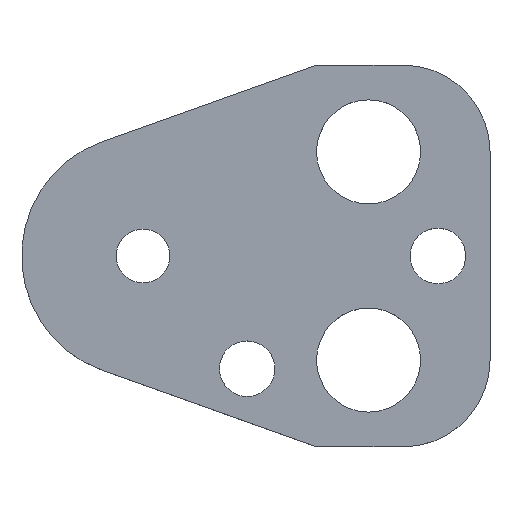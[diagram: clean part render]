
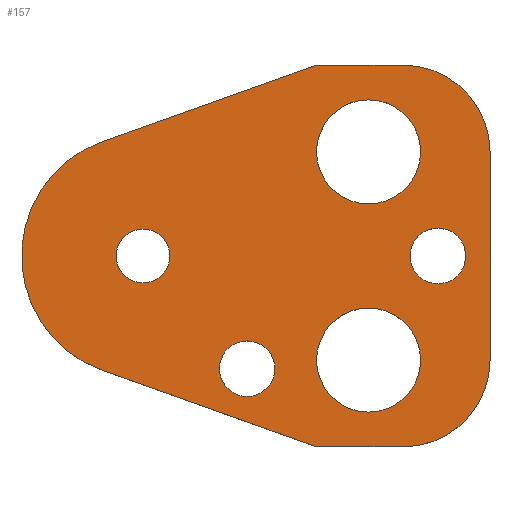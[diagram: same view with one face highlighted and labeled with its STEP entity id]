
A CAD part, top view. The second image highlights one B-rep face of the part: STEP entity #157.
In plain terms, the highlighted planar face has unit normal (0, 0, 1).
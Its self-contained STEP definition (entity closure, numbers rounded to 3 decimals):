
#103=FACE_BOUND('',#207,.T.);
#104=FACE_BOUND('',#208,.T.);
#105=FACE_BOUND('',#209,.T.);
#106=FACE_BOUND('',#210,.T.);
#107=FACE_BOUND('',#211,.T.);
#108=FACE_BOUND('',#212,.T.);
#122=CIRCLE('',#480,10.);
#124=CIRCLE('',#484,10.);
#127=CIRCLE('',#490,14.);
#138=CIRCLE('',#503,3.2);
#139=CIRCLE('',#504,3.2);
#140=CIRCLE('',#505,6.);
#141=CIRCLE('',#506,6.);
#142=CIRCLE('',#507,6.);
#143=CIRCLE('',#508,6.);
#144=CIRCLE('',#509,3.2);
#145=CIRCLE('',#510,3.2);
#146=CIRCLE('',#511,3.1);
#147=CIRCLE('',#512,3.1);
#157=ADVANCED_FACE('',(#103,#104,#105,#106,#107,#108),#174,.T.);
#174=PLANE('',#513);
#207=EDGE_LOOP('',(#273,#274,#275,#276,#277,#278,#279,#280));
#208=EDGE_LOOP('',(#281,#282));
#209=EDGE_LOOP('',(#283,#284));
#210=EDGE_LOOP('',(#285,#286));
#211=EDGE_LOOP('',(#287,#288));
#212=EDGE_LOOP('',(#289,#290));
#273=ORIENTED_EDGE('',*,*,#368,.T.);
#274=ORIENTED_EDGE('',*,*,#372,.T.);
#275=ORIENTED_EDGE('',*,*,#375,.T.);
#276=ORIENTED_EDGE('',*,*,#378,.T.);
#277=ORIENTED_EDGE('',*,*,#381,.T.);
#278=ORIENTED_EDGE('',*,*,#384,.T.);
#279=ORIENTED_EDGE('',*,*,#387,.T.);
#280=ORIENTED_EDGE('',*,*,#390,.T.);
#281=ORIENTED_EDGE('',*,*,#401,.T.);
#282=ORIENTED_EDGE('',*,*,#402,.T.);
#283=ORIENTED_EDGE('',*,*,#403,.T.);
#284=ORIENTED_EDGE('',*,*,#404,.T.);
#285=ORIENTED_EDGE('',*,*,#405,.T.);
#286=ORIENTED_EDGE('',*,*,#406,.T.);
#287=ORIENTED_EDGE('',*,*,#407,.T.);
#288=ORIENTED_EDGE('',*,*,#408,.T.);
#289=ORIENTED_EDGE('',*,*,#409,.T.);
#290=ORIENTED_EDGE('',*,*,#410,.T.);
#332=VERTEX_POINT('',#649);
#333=VERTEX_POINT('',#651);
#336=VERTEX_POINT('',#658);
#338=VERTEX_POINT('',#664);
#340=VERTEX_POINT('',#670);
#342=VERTEX_POINT('',#676);
#344=VERTEX_POINT('',#682);
#346=VERTEX_POINT('',#688);
#357=VERTEX_POINT('',#717);
#358=VERTEX_POINT('',#718);
#359=VERTEX_POINT('',#721);
#360=VERTEX_POINT('',#722);
#361=VERTEX_POINT('',#725);
#362=VERTEX_POINT('',#726);
#363=VERTEX_POINT('',#729);
#364=VERTEX_POINT('',#730);
#365=VERTEX_POINT('',#733);
#366=VERTEX_POINT('',#734);
#368=EDGE_CURVE('',#333,#332,#422,.T.);
#372=EDGE_CURVE('',#332,#336,#426,.T.);
#375=EDGE_CURVE('',#336,#338,#122,.T.);
#378=EDGE_CURVE('',#338,#340,#430,.T.);
#381=EDGE_CURVE('',#340,#342,#124,.T.);
#384=EDGE_CURVE('',#342,#344,#434,.T.);
#387=EDGE_CURVE('',#344,#346,#437,.T.);
#390=EDGE_CURVE('',#346,#333,#127,.T.);
#401=EDGE_CURVE('',#357,#358,#138,.T.);
#402=EDGE_CURVE('',#358,#357,#139,.T.);
#403=EDGE_CURVE('',#359,#360,#140,.T.);
#404=EDGE_CURVE('',#360,#359,#141,.T.);
#405=EDGE_CURVE('',#361,#362,#142,.T.);
#406=EDGE_CURVE('',#362,#361,#143,.T.);
#407=EDGE_CURVE('',#363,#364,#144,.T.);
#408=EDGE_CURVE('',#364,#363,#145,.T.);
#409=EDGE_CURVE('',#365,#366,#146,.T.);
#410=EDGE_CURVE('',#366,#365,#147,.T.);
#422=LINE('',#650,#450);
#426=LINE('',#659,#454);
#430=LINE('',#671,#458);
#434=LINE('',#683,#462);
#437=LINE('',#689,#465);
#450=VECTOR('',#527,1.);
#454=VECTOR('',#533,1.);
#458=VECTOR('',#545,1.);
#462=VECTOR('',#557,1.);
#465=VECTOR('',#562,1.);
#480=AXIS2_PLACEMENT_3D('',#665,#538,#539);
#484=AXIS2_PLACEMENT_3D('',#677,#550,#551);
#490=AXIS2_PLACEMENT_3D('',#693,#568,#569);
#503=AXIS2_PLACEMENT_3D('',#716,#594,#595);
#504=AXIS2_PLACEMENT_3D('',#719,#596,#597);
#505=AXIS2_PLACEMENT_3D('',#720,#598,#599);
#506=AXIS2_PLACEMENT_3D('',#723,#600,#601);
#507=AXIS2_PLACEMENT_3D('',#724,#602,#603);
#508=AXIS2_PLACEMENT_3D('',#727,#604,#605);
#509=AXIS2_PLACEMENT_3D('',#728,#606,#607);
#510=AXIS2_PLACEMENT_3D('',#731,#608,#609);
#511=AXIS2_PLACEMENT_3D('',#732,#610,#611);
#512=AXIS2_PLACEMENT_3D('',#735,#612,#613);
#513=AXIS2_PLACEMENT_3D('',#736,#614,#615);
#527=DIRECTION('',(0.942,-0.336,0.));
#533=DIRECTION('',(1.,0.,0.));
#538=DIRECTION('',(0.,0.,1.));
#539=DIRECTION('',(-0.707,0.707,0.));
#545=DIRECTION('',(0.,1.,0.));
#550=DIRECTION('',(0.,0.,1.));
#551=DIRECTION('',(-0.707,-0.707,0.));
#557=DIRECTION('',(-1.,0.,0.));
#562=DIRECTION('',(-0.942,-0.336,0.));
#568=DIRECTION('',(0.,0.,1.));
#569=DIRECTION('',(1.,0.,0.));
#594=DIRECTION('',(0.,0.,-1.));
#595=DIRECTION('',(-1.,0.,0.));
#596=DIRECTION('',(0.,0.,-1.));
#597=DIRECTION('',(1.,0.,0.));
#598=DIRECTION('',(0.,0.,-1.));
#599=DIRECTION('',(-1.,0.,0.));
#600=DIRECTION('',(0.,0.,-1.));
#601=DIRECTION('',(1.,0.,0.));
#602=DIRECTION('',(0.,0.,-1.));
#603=DIRECTION('',(-1.,0.,0.));
#604=DIRECTION('',(0.,0.,-1.));
#605=DIRECTION('',(1.,0.,0.));
#606=DIRECTION('',(0.,0.,-1.));
#607=DIRECTION('',(-1.,0.,0.));
#608=DIRECTION('',(0.,0.,-1.));
#609=DIRECTION('',(1.,0.,0.));
#610=DIRECTION('',(0.,0.,-1.));
#611=DIRECTION('',(-1.,0.,0.));
#612=DIRECTION('',(0.,0.,-1.));
#613=DIRECTION('',(1.,0.,0.));
#614=DIRECTION('',(0.,0.,1.));
#615=DIRECTION('',(0.942,-0.336,0.));
#649=CARTESIAN_POINT('',(20.,-22.,5.));
#650=CARTESIAN_POINT('',(20.,-22.,5.));
#651=CARTESIAN_POINT('',(-4.704,-13.186,5.));
#658=CARTESIAN_POINT('',(30.,-22.,5.));
#659=CARTESIAN_POINT('',(20.,-22.,5.));
#664=CARTESIAN_POINT('',(40.,-12.,5.));
#665=CARTESIAN_POINT('',(30.,-12.,5.));
#670=CARTESIAN_POINT('',(40.,12.,5.));
#671=CARTESIAN_POINT('',(40.,12.,5.));
#676=CARTESIAN_POINT('',(30.,22.,5.));
#677=CARTESIAN_POINT('',(30.,12.,5.));
#682=CARTESIAN_POINT('',(20.,22.,5.));
#683=CARTESIAN_POINT('',(20.,22.,5.));
#688=CARTESIAN_POINT('',(-4.704,13.186,5.));
#689=CARTESIAN_POINT('',(20.,22.,5.));
#693=CARTESIAN_POINT('',(0.,0.,5.));
#716=CARTESIAN_POINT('',(34.,0.,5.));
#717=CARTESIAN_POINT('',(34.,3.2,5.));
#718=CARTESIAN_POINT('',(34.,-3.2,5.));
#719=CARTESIAN_POINT('',(34.,0.,5.));
#720=CARTESIAN_POINT('',(26.,12.,5.));
#721=CARTESIAN_POINT('',(26.,18.,5.));
#722=CARTESIAN_POINT('',(26.,6.,5.));
#723=CARTESIAN_POINT('',(26.,12.,5.));
#724=CARTESIAN_POINT('',(26.,-12.,5.));
#725=CARTESIAN_POINT('',(26.,-6.,5.));
#726=CARTESIAN_POINT('',(26.,-18.,5.));
#727=CARTESIAN_POINT('',(26.,-12.,5.));
#728=CARTESIAN_POINT('',(12.,-13.,5.));
#729=CARTESIAN_POINT('',(12.,-9.8,5.));
#730=CARTESIAN_POINT('',(12.,-16.2,5.));
#731=CARTESIAN_POINT('',(12.,-13.,5.));
#732=CARTESIAN_POINT('',(0.,0.,5.));
#733=CARTESIAN_POINT('',(0.,3.1,5.));
#734=CARTESIAN_POINT('',(0.,-3.1,5.));
#735=CARTESIAN_POINT('',(0.,0.,5.));
#736=CARTESIAN_POINT('',(-4.704,-13.186,5.));
